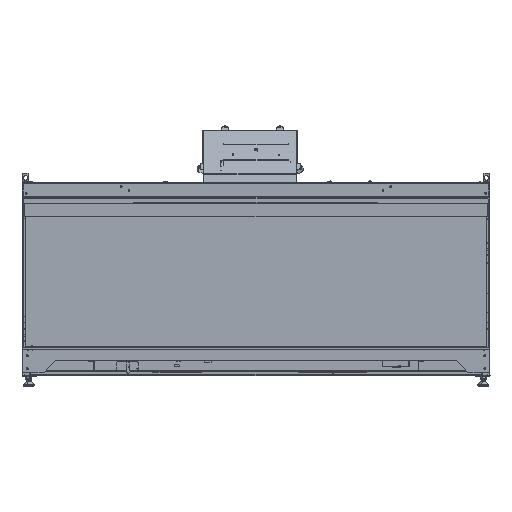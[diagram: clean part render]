
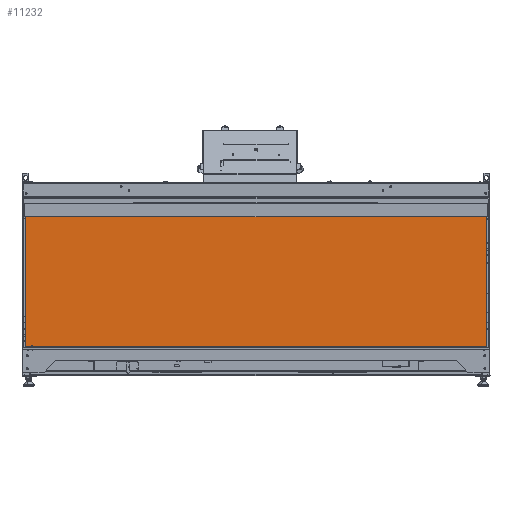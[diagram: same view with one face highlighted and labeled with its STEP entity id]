
A CAD part, top view. The second image highlights one B-rep face of the part: STEP entity #11232.
In plain terms, the highlighted planar face has unit normal (0, 0, 1).
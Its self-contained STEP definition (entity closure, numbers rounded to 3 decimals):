
#1421 = CARTESIAN_POINT ( 'NONE',  ( -341.344, 1638.211, 2016.322 ) ) ;
#11085 = DIRECTION ( 'NONE',  ( 0., -1., 0. ) ) ;
#11232 = ADVANCED_FACE ( 'NONE', ( #76650 ), #33562, .T. ) ;
#12532 = ORIENTED_EDGE ( 'NONE', *, *, #40517, .T. ) ;
#14218 = LINE ( 'NONE', #63461, #67504 ) ;
#15656 = EDGE_LOOP ( 'NONE', ( #12532, #64015, #57184, #47109 ) ) ;
#17658 = CARTESIAN_POINT ( 'NONE',  ( -341.344, 762.211, 2016.322 ) ) ;
#21259 = DIRECTION ( 'NONE',  ( 1., 0., 0. ) ) ;
#23965 = VERTEX_POINT ( 'NONE', #1421 ) ;
#26171 = LINE ( 'NONE', #75834, #77782 ) ;
#27681 = EDGE_CURVE ( 'NONE', #59090, #77709, #26171, .T. ) ;
#32951 = VECTOR ( 'NONE', #48192, 1000. ) ;
#33562 = PLANE ( 'NONE',  #40354 ) ;
#37913 = VECTOR ( 'NONE', #11085, 1000. ) ;
#38936 = CARTESIAN_POINT ( 'NONE',  ( 952.656, 1638.211, 2016.322 ) ) ;
#40354 = AXIS2_PLACEMENT_3D ( 'NONE', #77481, #63517, #21259 ) ;
#40517 = EDGE_CURVE ( 'NONE', #23965, #59090, #68116, .T. ) ;
#47109 = ORIENTED_EDGE ( 'NONE', *, *, #80224, .T. ) ;
#48192 = DIRECTION ( 'NONE',  ( -1., 0., 0. ) ) ;
#50294 = CARTESIAN_POINT ( 'NONE',  ( -341.344, 1270.211, 2016.322 ) ) ;
#54751 = LINE ( 'NONE', #78588, #32951 ) ;
#55224 = VERTEX_POINT ( 'NONE', #38936 ) ;
#56143 = DIRECTION ( 'NONE',  ( 1., 0., 0. ) ) ;
#57184 = ORIENTED_EDGE ( 'NONE', *, *, #74072, .F. ) ;
#58128 = DIRECTION ( 'NONE',  ( 0., -1., 0. ) ) ;
#59090 = VERTEX_POINT ( 'NONE', #50294 ) ;
#63461 = CARTESIAN_POINT ( 'NONE',  ( 952.656, 762.211, 2016.322 ) ) ;
#63517 = DIRECTION ( 'NONE',  ( 0., 0., 1. ) ) ;
#64015 = ORIENTED_EDGE ( 'NONE', *, *, #27681, .T. ) ;
#67504 = VECTOR ( 'NONE', #58128, 1000. ) ;
#68116 = LINE ( 'NONE', #17658, #37913 ) ;
#69294 = CARTESIAN_POINT ( 'NONE',  ( 952.656, 1270.211, 2016.322 ) ) ;
#74072 = EDGE_CURVE ( 'NONE', #55224, #77709, #14218, .T. ) ;
#75834 = CARTESIAN_POINT ( 'NONE',  ( 305.656, 1270.211, 2016.322 ) ) ;
#76650 = FACE_OUTER_BOUND ( 'NONE', #15656, .T. ) ;
#77481 = CARTESIAN_POINT ( 'NONE',  ( 305.656, 762.211, 2016.322 ) ) ;
#77709 = VERTEX_POINT ( 'NONE', #69294 ) ;
#77782 = VECTOR ( 'NONE', #56143, 1000. ) ;
#78588 = CARTESIAN_POINT ( 'NONE',  ( 305.656, 1638.211, 2016.322 ) ) ;
#80224 = EDGE_CURVE ( 'NONE', #55224, #23965, #54751, .T. ) ;
